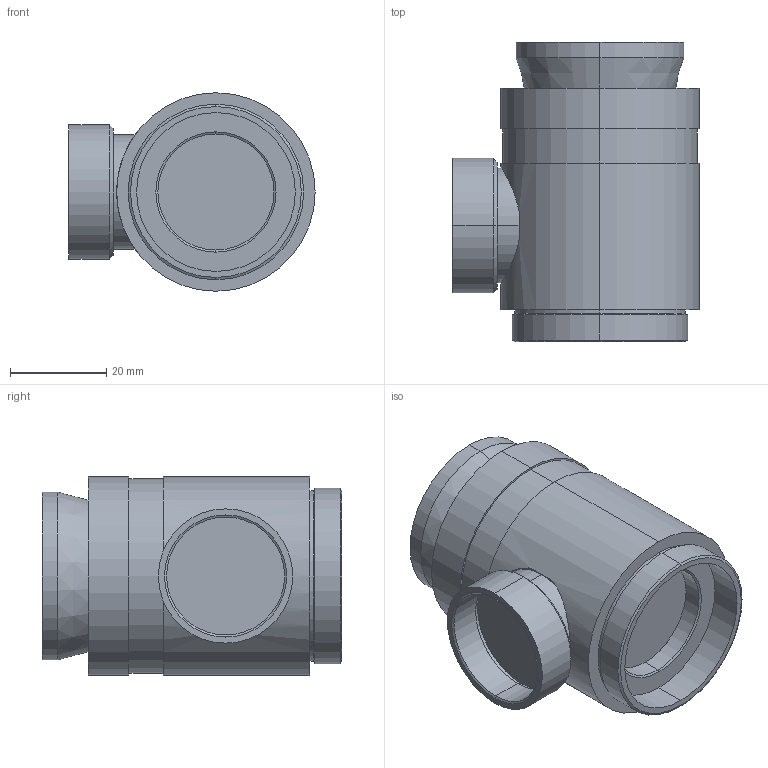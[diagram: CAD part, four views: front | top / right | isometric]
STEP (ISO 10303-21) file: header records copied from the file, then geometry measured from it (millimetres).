
FILE_DESCRIPTION (( 'STEP AP203' ), '1' );
FILE_NAME ('45-04-00-000 OUTLINE.STEP', '2020-08-17T19:12:26', ( '' ), ( '' ), 'SwSTEP 2.0', 'SolidWorks 2018', '' );
FILE_SCHEMA (( 'CONFIG_CONTROL_DESIGN' ));
Length unit declared in the file: inch
Products named in the file (1): 45-04-00-000 OUTLINE
Bounding box: 51.23 x 62.23 x 41.27 mm (x, y, z)
Volume: 63927.6 mm3; surface area: 14886.6 mm2
Topology: 1 solids, 1 shells, 59 faces, 116 edges, 70 vertices
Faces by surface type: cylinder 28, cone 18, plane 13
Entity records: 1683 total; most frequent: CARTESIAN_POINT 332, DIRECTION 302, ORIENTED_EDGE 232, AXIS2_PLACEMENT_3D 128, EDGE_CURVE 116, VERTEX_POINT 70, EDGE_LOOP 70, CIRCLE 68
